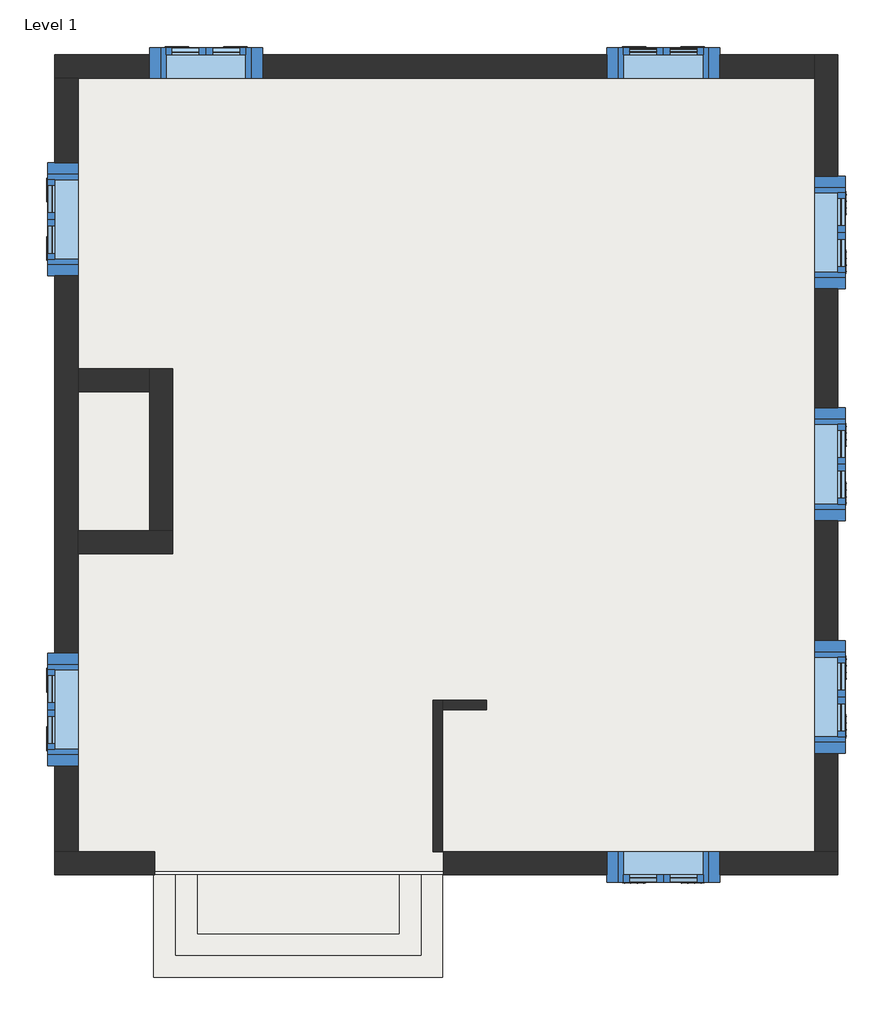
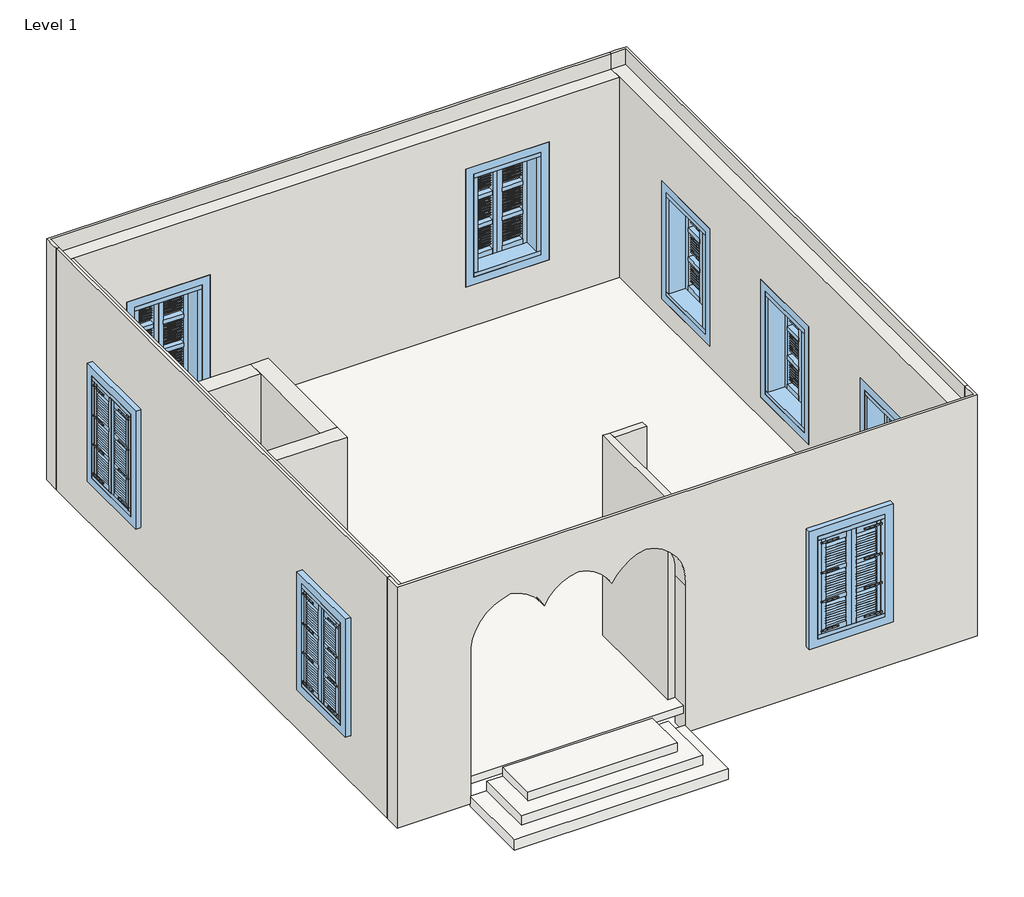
# One storey, incomplete: 9 walls, 8 windows, 4 slabs.
"""IFC4 building model written with IfcOpenShell, lengths in millimetres."""

from ifc_helpers import new_model, si_unit, frame, origin, origin_with_axes, place, context, project, spatial, polyline, circle_curve, outline, extrude, faceted_brep, transform, mapped, element, save
from ifc_brep_helpers import plane_surface, revolved_surface, advanced_brep
from components import window_0344a641

model = new_model("IFC4")

# Units and contexts
model_context = context("Model", 3, world=origin())
ifc_project = project(units=[si_unit("LENGTHUNIT", "METRE", prefix="MILLI")], contexts=[model_context])

# Site, building, storey
site = spatial("IfcSite", under=ifc_project)
building = spatial("IfcBuilding", under=site)
storey = spatial("IfcBuildingStorey", under=building, Name="Level 1", Elevation=0.0)

# Slabs
placement = place(None, origin())
element("IfcSlab", 1, ObjectType="Floor stairs entrances", at=placement, inside=storey, context=model_context, shape_type="SweptSolid", body=[
    extrude(outline(polyline([(1186.8619782, -5524.3323343), (1186.8619782, -6324.3323904), (-1563.1375714, -6324.3323904), (-1563.1375714, -5524.3323343), (1186.8619782, -5524.3323343)])), frame((0.0, 0.0, -200.0), z_axis=(0.0, 0.0, 1.0), x_axis=(1.0, 0.0, 0.0)), (0.0, 0.0, 1.0), 200.0),
])
element("IfcSlab", 2, ObjectType="Floor stairs entrances", at=placement, inside=storey, context=model_context, shape_type="SweptSolid", body=[
    extrude(outline(polyline([(-1563.1375714, -6324.3323904), (1186.8619782, -6324.3323904), (1186.8619782, -5524.3323343), (1486.8611762, -5524.3323343), (1486.8613916, -6624.3323896), (-1863.138015, -6624.3323495), (-1863.1382303, -5524.334187), (-1563.1375714, -5524.334187), (-1563.1375714, -6324.3323904)])), frame((0.0, 0.0, -366.7), z_axis=(0.0, 0.0, 1.0), x_axis=(1.0, 0.0, 0.0)), (0.0, 0.0, 1.0), 200.0),
])
element("IfcSlab", 3, ObjectType="Floor stairs entrances", at=placement, inside=storey, context=model_context, shape_type="SweptSolid", body=[
    extrude(outline(polyline([(-1863.1382303, -5524.3323343), (-1863.138015, -6624.3323495), (1486.8613916, -6624.3323896), (1486.8611762, -5524.3323343), (1786.8618038, -5524.3323343), (1786.8618038, -6924.3325537), (-2163.1382449, -6924.3325537), (-2163.1382449, -5524.3323343), (-1863.1382303, -5524.3323343)])), frame((0.0, 0.0, -550.0), z_axis=(0.0, 0.0, 1.0), x_axis=(1.0, 0.0, 0.0)), (0.0, 0.0, 1.0), 200.0),
])
element("IfcSlab", 4, ObjectType="Generic 150mm", at=placement, inside=storey, context=model_context, shape_type="Brep", body=[
    faceted_brep([(7136.8618283, -5474.3323343, -150.0), (-3463.1381717, -5474.3323343, -150.0), (-3463.1381717, -5209.3323343, -150.0), (-3463.1381717, 5360.6676657, -150.0), (-3463.1381717, 5625.6676657, -150.0), (6871.8618283, 5625.6676657, -150.0), (7136.8618283, 5625.6676657, -150.0), (7136.8618283, -5209.3323343, -150.0), (7136.8618283, -5474.3323343, 0.0), (7136.8618283, -5209.3323343, 0.0), (7136.8618283, 5625.6676657, 0.0), (6871.8618283, 5625.6676657, 0.0), (-3463.1381717, 5625.6676657, 0.0), (-3463.1381717, 5360.6676657, 0.0), (-3463.1381717, -5209.3323343, 0.0), (-3463.1381717, -5474.3323343, 0.0)], [[[0, 1, 2, 3, 4, 5, 6, 7]], [[8, 9, 10, 11, 12, 13, 14, 15]], [[1, 0, 8, 15]], [[4, 3, 2, 1, 15, 14, 13, 12]], [[6, 5, 4, 12, 11, 10]], [[0, 7, 6, 10, 9, 8]]]),
])

# Walls
element("IfcWall", 5, ObjectType="Double wall 250mm", at=placement, inside=storey, context=model_context, shape_type="AdvancedBrep", body=[
    advanced_brep(
    [(7186.8618283, -5524.3323343, 4200.0), (-3513.1381717, -5524.3323343, 4200.0), (-3513.1381717, -5524.3323343, -500.0), (-2153.1673852, -5524.3323343, -500.0), (-2153.1673852, -5524.3323343, 2380.0), (-1427.9565679, -5524.3323343, 3335.4150695), (-802.9565679, -5524.3323343, 2884.2955271), (-177.9565679, -5524.3323343, 3335.4150695), (447.0434321, -5524.3323343, 2884.2955271), (1072.0434321, -5524.3323343, 3335.4150695), (1797.0434321, -5524.3323343, 2380.0), (1797.0434321, -5524.3323343, -500.0), (7186.8618283, -5524.3323343, -500.0), (5571.8618283, -5524.3323343, 2700.0), (5571.8618283, -5524.3323343, 400.0), (4031.8618283, -5524.3323343, 400.0), (4031.8618283, -5524.3323343, 2700.0), (7186.8618283, -5209.3323343, 4200.0), (7186.8618283, -5209.3323343, -500.0), (6871.8618283, -5209.3323343, -500.0), (1797.0434321, -5209.3323343, -500.0), (1797.0434321, -5209.3323343, 2380.0), (1072.0434321, -5209.3323343, 3335.4150695), (447.0434321, -5209.3323343, 2884.2955271), (-177.9565679, -5209.3323343, 3335.4150695), (-802.9565679, -5209.3323343, 2884.2955271), (-1427.9565679, -5209.3323343, 3335.4150695), (-2153.1673852, -5209.3323343, 2380.0), (-2153.1673852, -5209.3323343, -500.0), (-3198.1381717, -5209.3323343, -500.0), (-3513.1381717, -5209.3323343, -500.0), (-3513.1381717, -5209.3323343, 4200.0), (-3463.1381717, -5209.3323343, 4200.0), (-3463.1381717, -5209.3323343, 3900.0), (-3198.1381717, -5209.3323343, 3900.0), (1656.8618038, -5209.3323343, 3900.0), (1786.8618038, -5209.3323343, 3900.0), (6871.8618283, -5209.3323343, 3900.0), (7136.8618283, -5209.3323343, 3900.0), (7136.8618283, -5209.3323343, 4200.0), (5571.8618283, -5209.3323343, 400.0), (5571.8618283, -5209.3323343, 2700.0), (4031.8618283, -5209.3323343, 2700.0), (4031.8618283, -5209.3323343, 400.0), (7186.8618283, -5304.3323343, 4200.0), (7136.8618283, -5474.3323343, 4200.0), (-3463.1381717, -5474.3323343, 4200.0), (-3513.1381717, -5304.3323343, 4200.0), (-3463.1381717, -5474.3323343, 3900.0), (7136.8618283, -5474.3323343, 3900.0)],
    [
        (0, 1),
        (1, 2),
        (2, 3),
        (3, 4),
        (4, 5, circle_curve(frame((-1283.8635384, -5524.3323343, 2473.0964895), z_axis=(0.0, 1.0, 0.0), x_axis=(-1.0, 0.0, 0.0)), 874.2746333)),
        (5, 6, circle_curve(frame((-1554.2065679, -5524.3323343, 2501.9925828), z_axis=(0.0, 1.0, 0.0), x_axis=(-1.0, 0.0, 0.0)), 842.9306637)),
        (6, 7, circle_curve(frame((-51.7065679, -5524.3323343, 2501.9925828), z_axis=(0.0, 1.0, 0.0), x_axis=(-1.0, 0.0, 0.0)), 842.9306637)),
        (7, 8, circle_curve(frame((-304.2065679, -5524.3323343, 2501.9925828), z_axis=(0.0, 1.0, 0.0), x_axis=(-1.0, 0.0, 0.0)), 842.9306637)),
        (8, 9, circle_curve(frame((1198.2934321, -5524.3323343, 2501.9925828), z_axis=(0.0, 1.0, 0.0), x_axis=(-1.0, 0.0, 0.0)), 842.9306637)),
        (9, 10, circle_curve(frame((928.1732549, -5524.3323343, 2473.4573903), z_axis=(0.0, 1.0, 0.0), x_axis=(-1.0, 0.0, 0.0)), 873.8819535)),
        (10, 11),
        (11, 12),
        (12, 0),
        (13, 14),
        (14, 15),
        (15, 16),
        (16, 13),
        (17, 18),
        (18, 19),
        (19, 20),
        (20, 21),
        (21, 22, circle_curve(frame((928.1732549, -5209.3323343, 2473.4573903), z_axis=(0.0, -1.0, 0.0), x_axis=(-1.0, 0.0, 0.0)), 873.8819535)),
        (22, 23, circle_curve(frame((1198.2934321, -5209.3323343, 2501.9925828), z_axis=(0.0, -1.0, 0.0), x_axis=(-1.0, 0.0, 0.0)), 842.9306637)),
        (23, 24, circle_curve(frame((-304.2065679, -5209.3323343, 2501.9925828), z_axis=(0.0, -1.0, 0.0), x_axis=(-1.0, 0.0, 0.0)), 842.9306637)),
        (24, 25, circle_curve(frame((-51.7065679, -5209.3323343, 2501.9925828), z_axis=(0.0, -1.0, 0.0), x_axis=(-1.0, 0.0, 0.0)), 842.9306637)),
        (25, 26, circle_curve(frame((-1554.2065679, -5209.3323343, 2501.9925828), z_axis=(0.0, -1.0, 0.0), x_axis=(-1.0, 0.0, 0.0)), 842.9306637)),
        (26, 27, circle_curve(frame((-1283.8635384, -5209.3323343, 2473.0964895), z_axis=(0.0, -1.0, 0.0), x_axis=(-1.0, 0.0, 0.0)), 874.2746333)),
        (27, 28),
        (28, 29),
        (29, 30),
        (30, 31),
        (31, 32),
        (32, 33),
        (33, 34),
        (34, 35),
        (35, 36),
        (36, 37),
        (37, 38),
        (38, 39),
        (39, 17),
        (40, 41),
        (41, 42),
        (42, 43),
        (43, 40),
        (18, 12),
        (11, 20),
        (2, 30),
        (28, 3),
        (0, 44),
        (44, 17),
        (39, 45),
        (45, 46),
        (46, 32),
        (31, 47),
        (47, 1),
        (40, 14),
        (13, 41),
        (16, 42),
        (15, 43),
        (26, 5),
        (4, 27),
        (25, 6),
        (24, 7),
        (23, 8),
        (22, 9),
        (21, 10),
        (48, 49),
        (49, 38),
        (33, 48),
        (49, 45),
        (48, 46),
    ],
    [
        plane_surface(frame((-3372.6741935, -5524.3323343, -500.0), z_axis=(0.0, -1.0, 0.0), x_axis=(1.0, 0.0, 0.0))),
        plane_surface(frame((-3372.6741935, -5209.3323343, -500.0), z_axis=(0.0, 1.0, 0.0), x_axis=(-1.0, 0.0, 0.0))),
        plane_surface(frame((-3355.6381717, -5524.3323343, -500.0), z_axis=(0.0, 0.0, -1.0), x_axis=(0.0, 1.0, 0.0))),
        plane_surface(frame((7029.3618283, -5524.3323343, 4200.0), z_axis=(0.0, 0.0, 1.0), x_axis=(0.0, 1.0, 0.0))),
        plane_surface(frame((7186.8618283, -5474.3323343, -500.0), z_axis=(1.0, 0.0, 0.0), x_axis=(0.0, 1.0, 0.0))),
        plane_surface(frame((-3513.1381717, 5625.6676657, -500.0), z_axis=(-1.0, 0.0, 0.0), x_axis=(0.0, -1.0, 0.0))),
        plane_surface(frame((5571.8618283, -5209.3323343, 400.0), z_axis=(-1.0, 0.0, 0.0), x_axis=(0.0, -1.0, 0.0))),
        plane_surface(frame((5571.8618283, -5209.3323343, 2700.0), z_axis=(0.0, 0.0, -1.0), x_axis=(0.0, -1.0, 0.0))),
        plane_surface(frame((4031.8618283, -5209.3323343, 2700.0), z_axis=(1.0, 0.0, 0.0), x_axis=(0.0, -1.0, 0.0))),
        plane_surface(frame((4031.8618283, -5209.3323343, 400.0), z_axis=(0.0, 0.0, 1.0), x_axis=(0.0, -1.0, 0.0))),
        revolved_surface(polyline([(-2158.1381717, -5209.3323343, 2473.0964895), (-2158.1381717, -5524.3323343, 2473.0964895)]), (-1283.8635384, -5524.3323343, 2473.0964895), (0.0, 1.0, 0.0)),
        revolved_surface(polyline([(-2397.1372315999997, -5209.3323343, 2501.9925828), (-2397.1372315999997, -5524.3323343, 2501.9925828)]), (-1554.2065679, -5524.3323343, 2501.9925828), (0.0, 1.0, 0.0)),
        revolved_surface(polyline([(-894.6372316, -5209.3323343, 2501.9925828), (-894.6372316, -5524.3323343, 2501.9925828)]), (-51.7065679, -5524.3323343, 2501.9925828), (0.0, 1.0, 0.0)),
        revolved_surface(polyline([(-1147.1372316, -5209.3323343, 2501.9925828), (-1147.1372316, -5524.3323343, 2501.9925828)]), (-304.2065679, -5524.3323343, 2501.9925828), (0.0, 1.0, 0.0)),
        revolved_surface(polyline([(355.36276840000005, -5209.3323343, 2501.9925828), (355.36276840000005, -5524.3323343, 2501.9925828)]), (1198.2934321, -5524.3323343, 2501.9925828), (0.0, 1.0, 0.0)),
        revolved_surface(polyline([(54.29130139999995, -5209.3323343, 2473.4573903), (54.29130139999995, -5524.3323343, 2473.4573903)]), (928.1732549, -5524.3323343, 2473.4573903), (0.0, 1.0, 0.0)),
        plane_surface(frame((1797.0434321, -5209.3323343, 2380.0), z_axis=(-1.0, 0.0, 0.0), x_axis=(0.0, -1.0, 0.0))),
        plane_surface(frame((-2153.1673852, -5209.3323343, -500.0), z_axis=(1.0, 0.0, 0.0), x_axis=(0.0, -1.0, 0.0))),
        plane_surface(frame((7136.8618283, 5625.6676657, 3900.0), z_axis=(0.0, 0.0, 1.0), x_axis=(1.0, 0.0, 0.0))),
        plane_surface(frame((7136.8618283, -5474.3323343, 3900.0), z_axis=(-1.0, 0.0, 0.0), x_axis=(0.0, 1.0, 0.0))),
        plane_surface(frame((-3463.1381717, -5474.3323343, 3900.0), z_axis=(0.0, 1.0, 0.0), x_axis=(1.0, 0.0, 0.0))),
        plane_surface(frame((-3463.1381717, 5625.6676657, 3900.0), z_axis=(1.0, 0.0, 0.0), x_axis=(0.0, -1.0, 0.0))),
    ],
    [
        (0, [[1, 2, 3, 4, 5, 6, 7, 8, 9, 10, 11, 12, 13], [14, 15, 16, 17]]),
        (1, [[18, 19, 20, 21, 22, 23, 24, 25, 26, 27, 28, 29, 30, 31, 32, 33, 34, 35, 36, 37, 38, 39, 40], [41, 42, 43, 44]]),
        (2, [[45, -12, 46, -20, -19]]),
        (2, [[47, -30, -29, 48, -3]]),
        (3, [[-1, 49, 50, -40, 51, 52, 53, -32, 54, 55]]),
        (4, [[-13, -45, -18, -50, -49]]),
        (5, [[-2, -55, -54, -31, -47]]),
        (6, [[-41, 56, -14, 57]]),
        (7, [[-42, -57, -17, 58]]),
        (8, [[-43, -58, -16, 59]]),
        (9, [[-44, -59, -15, -56]]),
        (10, [[60, -5, 61, -27]]),
        (11, [[-60, -26, 62, -6]]),
        (12, [[-62, -25, 63, -7]]),
        (13, [[-63, -24, 64, -8]]),
        (14, [[-64, -23, 65, -9]]),
        (15, [[-65, -22, 66, -10]]),
        (16, [[-66, -21, -46, -11]]),
        (17, [[-61, -4, -48, -28]]),
        (18, [[67, 68, -38, -37, -36, -35, -34, 69]]),
        (19, [[70, -51, -39, -68]]),
        (20, [[-67, 71, -52, -70]]),
        (21, [[-71, -69, -33, -53]]),
    ],
),
])
element("IfcWall", 6, ObjectType="Double wall 250mm", at=placement, inside=storey, context=model_context, shape_type="Brep", body=[
    faceted_brep([(7186.8618283, -5209.3323343, -500.0), (7186.8618283, 5675.6676657, -500.0), (7186.8618283, 5675.6676657, 4200.0), (7186.8618283, -5209.3323343, 4200.0), (7186.8618283, -2324.3319881, 2700.0), (7186.8618283, -2324.3319881, 400.0), (7186.8618283, -3864.3319881, 400.0), (7186.8618283, -3864.3319881, 2700.0), (7186.8618283, 855.6680119, 2700.0), (7186.8618283, 855.6680119, 400.0), (7186.8618283, -684.3319881, 400.0), (7186.8618283, -684.3319881, 2700.0), (7186.8618283, 4020.6676657, 2700.0), (7186.8618283, 4020.6676657, 400.0), (7186.8618283, 2480.6676657, 400.0), (7186.8618283, 2480.6676657, 2700.0), (6871.8618283, 5675.6676657, -500.0), (6871.8618283, 5360.6676657, -500.0), (6871.8618283, -5209.3323343, -500.0), (6871.8618283, -5209.3323343, -150.0), (6871.8618283, 5625.6676657, -150.0), (6871.8618283, 5625.6676657, 0.0), (6871.8618283, -5209.3323343, 0.0), (6871.8618283, -5209.3323343, 3900.0), (6871.8618283, 5360.6676657, 3900.0), (6871.8618283, 5625.6676657, 3900.0), (6871.8618283, 5625.6676657, 4200.0), (6871.8618283, 5675.6676657, 4200.0), (6871.8618283, -2324.3319881, 400.0), (6871.8618283, -2324.3319881, 2700.0), (6871.8618283, -3864.3319881, 2700.0), (6871.8618283, -3864.3319881, 400.0), (6871.8618283, 855.6680119, 400.0), (6871.8618283, 855.6680119, 2700.0), (6871.8618283, -684.3319881, 2700.0), (6871.8618283, -684.3319881, 400.0), (6871.8618283, 4020.6676657, 400.0), (6871.8618283, 4020.6676657, 2700.0), (6871.8618283, 2480.6676657, 2700.0), (6871.8618283, 2480.6676657, 400.0), (6966.8618283, 5675.6676657, 4200.0), (7136.8618283, 5625.6676657, 4200.0), (7136.8618283, -5209.3323343, 4200.0), (7136.8618283, -5209.3323343, 3900.0), (7136.8618283, -5209.3323343, 0.0), (7136.8618283, -5209.3323343, -150.0), (7136.8618283, 5625.6676657, 3900.0), (7136.8618283, 5625.6676657, -150.0), (7136.8618283, 5625.6676657, 0.0)], [[[0, 1, 2, 3], [4, 5, 6, 7], [8, 9, 10, 11], [12, 13, 14, 15]], [[16, 17, 18, 19, 20, 21, 22, 23, 24, 25, 26, 27], [28, 29, 30, 31], [32, 33, 34, 35], [36, 37, 38, 39]], [[1, 0, 18, 17, 16]], [[3, 2, 40, 27, 26, 41, 42]], [[0, 3, 42, 43, 23, 22, 44, 45, 19, 18]], [[2, 1, 16, 27, 40]], [[29, 28, 5, 4]], [[30, 29, 4, 7]], [[31, 30, 7, 6]], [[28, 31, 6, 5]], [[33, 32, 9, 8]], [[34, 33, 8, 11]], [[35, 34, 11, 10]], [[32, 35, 10, 9]], [[37, 36, 13, 12]], [[38, 37, 12, 15]], [[39, 38, 15, 14]], [[36, 39, 14, 13]], [[43, 46, 25, 24, 23]], [[46, 41, 26, 25]], [[41, 46, 43, 42]], [[45, 47, 20, 19]], [[21, 48, 44, 22]], [[47, 48, 21, 20]], [[48, 47, 45, 44]]]),
])
element("IfcWall", 7, ObjectType="Double wall 250mm", at=placement, inside=storey, context=model_context, shape_type="Brep", body=[
    faceted_brep([(6871.8618283, 5675.6676657, -500.0), (-3513.1381717, 5675.6676657, -500.0), (-3513.1381717, 5675.6676657, 4200.0), (6871.8618283, 5675.6676657, 4200.0), (-2218.1381717, 5675.6676657, 2700.0), (-2218.1381717, 5675.6676657, 400.0), (-678.1381717, 5675.6676657, 400.0), (-678.1381717, 5675.6676657, 2700.0), (4031.8618283, 5675.6676657, 3100.0), (4031.8618283, 5675.6676657, 800.0), (5571.8618283, 5675.6676657, 800.0), (5571.8618283, 5675.6676657, 3100.0), (-3513.1381717, 5360.6676657, -500.0), (-3198.1381717, 5360.6676657, -500.0), (6871.8618283, 5360.6676657, -500.0), (6871.8618283, 5360.6676657, 3900.0), (-3198.1381717, 5360.6676657, 3900.0), (-3463.1381717, 5360.6676657, 3900.0), (-3463.1381717, 5360.6676657, 4200.0), (-3513.1381717, 5360.6676657, 4200.0), (-2218.1381717, 5360.6676657, 400.0), (-2218.1381717, 5360.6676657, 2700.0), (-678.1381717, 5360.6676657, 2700.0), (-678.1381717, 5360.6676657, 400.0), (4031.8618283, 5360.6676657, 800.0), (4031.8618283, 5360.6676657, 3100.0), (5571.8618283, 5360.6676657, 3100.0), (5571.8618283, 5360.6676657, 800.0), (-3513.1381717, 5455.6676657, 4200.0), (-3463.1381717, 5625.6676657, 4200.0), (6871.8618283, 5625.6676657, 4200.0), (6871.8618283, 5625.6676657, 3900.0), (-3463.1381717, 5625.6676657, 3900.0)], [[[0, 1, 2, 3], [4, 5, 6, 7], [8, 9, 10, 11]], [[12, 13, 14, 15, 16, 17, 18, 19], [20, 21, 22, 23], [24, 25, 26, 27]], [[1, 0, 14, 13, 12]], [[3, 2, 28, 19, 18, 29, 30]], [[0, 3, 30, 31, 15, 14]], [[2, 1, 12, 19, 28]], [[21, 20, 5, 4]], [[22, 21, 4, 7]], [[23, 22, 7, 6]], [[20, 23, 6, 5]], [[32, 17, 16, 15, 31]], [[29, 32, 31, 30]], [[32, 29, 18, 17]], [[25, 24, 9, 8]], [[26, 25, 8, 11]], [[27, 26, 11, 10]], [[24, 27, 10, 9]]]),
])
element("IfcWall", 8, ObjectType="Double wall 250mm", at=placement, inside=storey, context=model_context, shape_type="Brep", body=[
    faceted_brep([(-3513.1381717, 5360.6676657, -500.0), (-3513.1381717, -5209.3323343, -500.0), (-3513.1381717, -5209.3323343, 4200.0), (-3513.1381717, 5360.6676657, 4200.0), (-3513.1381717, 2660.6676657, 2700.0), (-3513.1381717, 2660.6676657, 400.0), (-3513.1381717, 4200.6676657, 400.0), (-3513.1381717, 4200.6676657, 2700.0), (-3513.1381717, -4035.2541777, 2700.0), (-3513.1381717, -4035.2541777, 400.0), (-3513.1381717, -2495.2541777, 400.0), (-3513.1381717, -2495.2541777, 2700.0), (-3198.1381717, -5209.3323343, -500.0), (-3198.1381717, 5360.6676657, -500.0), (-3198.1381717, 5360.6676657, -150.0), (-3198.1381717, -5209.3323343, -150.0), (-3198.1381717, 5360.6676657, 3900.0), (-3198.1381717, 1390.6676674, 3900.0), (-3198.1381717, 1075.6676674, 3900.0), (-3198.1381717, -824.3323326, 3900.0), (-3198.1381717, -1139.3323326, 3900.0), (-3198.1381717, -5209.3323343, 3900.0), (-3198.1381717, -5209.3323343, 0.0), (-3198.1381717, -1139.3323326, 0.0), (-3198.1381717, -824.3323326, 0.0), (-3198.1381717, 1075.6676674, 0.0), (-3198.1381717, 1390.6676674, 0.0), (-3198.1381717, 5360.6676657, 0.0), (-3198.1381717, 2660.6676657, 400.0), (-3198.1381717, 2660.6676657, 2700.0), (-3198.1381717, 4200.6676657, 2700.0), (-3198.1381717, 4200.6676657, 400.0), (-3198.1381717, -4035.2541777, 400.0), (-3198.1381717, -4035.2541777, 2700.0), (-3198.1381717, -2495.2541777, 2700.0), (-3198.1381717, -2495.2541777, 400.0), (-3463.1381717, -5209.3323343, 4200.0), (-3463.1381717, 5360.6676657, 4200.0), (-3463.1381717, 5360.6676657, 3900.0), (-3463.1381717, 5360.6676657, 0.0), (-3463.1381717, 5360.6676657, -150.0), (-3463.1381717, -5209.3323343, -150.0), (-3463.1381717, -5209.3323343, 0.0), (-3463.1381717, -5209.3323343, 3900.0)], [[[0, 1, 2, 3], [4, 5, 6, 7], [8, 9, 10, 11]], [[12, 13, 14, 15]], [[16, 17, 18, 19, 20, 21, 22, 23, 24, 25, 26, 27], [28, 29, 30, 31], [32, 33, 34, 35]], [[1, 0, 13, 12]], [[3, 2, 36, 37]], [[0, 3, 37, 38, 16, 27, 39, 40, 14, 13]], [[2, 1, 12, 15, 41, 42, 22, 21, 43, 36]], [[29, 28, 5, 4]], [[30, 29, 4, 7]], [[31, 30, 7, 6]], [[28, 31, 6, 5]], [[33, 32, 9, 8]], [[34, 33, 8, 11]], [[35, 34, 11, 10]], [[32, 35, 10, 9]], [[38, 43, 21, 20, 19, 18, 17, 16]], [[43, 38, 37, 36]], [[40, 41, 15, 14]], [[42, 39, 27, 26, 25, 24, 23, 22]], [[41, 40, 39, 42]]]),
])
element("IfcWall", 9, ObjectType="Double wall 250mm", at=placement, inside=storey, context=model_context, shape_type="Brep", body=[
    faceted_brep([(-3198.1381717, -1139.3323326, 0.0), (-1903.1381717, -1139.3323326, 0.0), (-1903.1381717, -1139.3323326, 3900.0), (-3198.1381717, -1139.3323326, 3900.0), (-3198.1381717, -824.3323326, 0.0), (-3198.1381717, -824.3323326, 3900.0), (-2218.1381717, -824.3323326, 3900.0), (-1903.1381717, -824.3323326, 3900.0), (-1903.1381717, -824.3323326, 0.0), (-2218.1381717, -824.3323326, 0.0)], [[[0, 1, 2, 3]], [[4, 5, 6, 7, 8, 9]], [[1, 0, 4, 9, 8]], [[0, 3, 5, 4]], [[2, 1, 8, 7]], [[3, 2, 7, 6, 5]]]),
])
element("IfcWall", 10, ObjectType="Double wall 250mm", at=placement, inside=storey, context=model_context, shape_type="Brep", body=[
    faceted_brep([(-1903.1381717, -824.3323326, 0.0), (-1903.1381717, 1390.6676674, 0.0), (-1903.1381717, 1390.6676674, 3900.0), (-1903.1381717, -824.3323326, 3900.0), (-2218.1381717, -824.3323326, 0.0), (-2218.1381717, -824.3323326, 3900.0), (-2218.1381717, 1075.6676674, 3900.0), (-2218.1381717, 1390.6676674, 3900.0), (-2218.1381717, 1390.6676674, 0.0), (-2218.1381717, 1075.6676674, 0.0)], [[[0, 1, 2, 3]], [[4, 5, 6, 7, 8, 9]], [[1, 0, 4, 9, 8]], [[0, 3, 5, 4]], [[2, 1, 8, 7]], [[3, 2, 7, 6, 5]]]),
])
element("IfcWall", 11, ObjectType="Double wall 250mm", at=placement, inside=storey, context=model_context, shape_type="SweptSolid", body=[
    extrude(outline(polyline([(-3198.1381717, 1390.6676674), (-2218.1381717, 1390.6676674), (-2218.1381717, 1075.6676674), (-3198.1381717, 1075.6676674), (-3198.1381717, 1390.6676674)])), origin_with_axes(), (0.0, 0.0, 1.0), 3900.0),
])
element("IfcWall", 12, ObjectType="Wall 100 mm", at=placement, inside=storey, context=model_context, shape_type="Brep", body=[
    faceted_brep([(1786.8618038, -5209.3323343, 0.0), (1786.8618038, -3269.3323343, 0.0), (1786.8618038, -3139.3323343, 0.0), (1786.8618038, -3139.3323343, 3900.0), (1786.8618038, -3269.3323343, 3900.0), (1786.8618038, -5209.3323343, 3900.0), (1656.8618038, -5209.3323343, 0.0), (1656.8618038, -5209.3323343, 3900.0), (1656.8618038, -3139.3323343, 3900.0), (1656.8618038, -3139.3323343, 0.0)], [[[0, 1, 2, 3, 4, 5]], [[6, 7, 8, 9]], [[2, 1, 0, 6, 9]], [[0, 5, 7, 6]], [[3, 2, 9, 8]], [[5, 4, 3, 8, 7]]]),
])
element("IfcWall", 13, ObjectType="Wall 100 mm", at=placement, inside=storey, context=model_context, shape_type="SweptSolid", body=[
    extrude(outline(polyline([(2386.8618038, -3269.3323343), (1786.8618038, -3269.3323343), (1786.8618038, -3139.3323343), (2386.8618038, -3139.3323343), (2386.8618038, -3269.3323343)])), origin_with_axes(), (0.0, 0.0, 1.0), 3900.0),
])

# Windows
window_shape = window_0344a641(model_context)
element("IfcWindow", 14, ObjectType="ziad louvers : ziad louvers", at=placement, inside=storey, context=model_context, shape_type="MappedRepresentation", body=[
    mapped(window_shape, transform((4801.8618283, -5366.8323343, -400.0), x_axis=(-1.0, 0.0, 0.0), y_axis=(0.0, -1.0, 0.0), z_axis=(0.0, 0.0, 1.0))),
])
element("IfcWindow", 15, ObjectType="ziad louvers : ziad louvers", at=placement, inside=storey, context=model_context, shape_type="MappedRepresentation", body=[
    mapped(window_shape, transform((7029.3618283, -3094.3319881, -400.0), x_axis=(0.0, -1.0, 0.0), y_axis=(1.0, 0.0, 0.0), z_axis=(0.0, 0.0, 1.0))),
])
element("IfcWindow", 16, ObjectType="ziad louvers : ziad louvers", at=placement, inside=storey, context=model_context, shape_type="MappedRepresentation", body=[
    mapped(window_shape, transform((7029.3618283, 85.6680119, -400.0), x_axis=(0.0, -1.0, 0.0), y_axis=(1.0, 0.0, 0.0), z_axis=(0.0, 0.0, 1.0))),
])
element("IfcWindow", 17, ObjectType="ziad louvers : ziad louvers", at=placement, inside=storey, context=model_context, shape_type="MappedRepresentation", body=[
    mapped(window_shape, transform((7029.3618283, 3250.6676657, -400.0), x_axis=(0.0, -1.0, 0.0), y_axis=(1.0, 0.0, 0.0), z_axis=(0.0, 0.0, 1.0))),
])
element("IfcWindow", 18, ObjectType="ziad louvers : ziad louvers", at=placement, inside=storey, context=model_context, shape_type="MappedRepresentation", body=[
    mapped(window_shape, transform((-1448.1381717, 5518.1676657, -400.0), x_axis=(1.0, 0.0, 0.0), y_axis=(0.0, 1.0, 0.0), z_axis=(0.0, 0.0, 1.0))),
])
element("IfcWindow", 19, ObjectType="ziad louvers : ziad louvers", at=placement, inside=storey, context=model_context, shape_type="MappedRepresentation", body=[
    mapped(window_shape, transform((-3355.6381717, 3430.6676657, -400.0), x_axis=(0.0, 1.0, 0.0), y_axis=(-1.0, 0.0, 0.0), z_axis=(0.0, 0.0, 1.0))),
])
element("IfcWindow", 20, ObjectType="ziad louvers : ziad louvers", at=placement, inside=storey, context=model_context, shape_type="MappedRepresentation", body=[
    mapped(window_shape, transform((-3355.6381717, -3265.2541777, -400.0), x_axis=(0.0, 1.0, 0.0), y_axis=(-1.0, 0.0, 0.0), z_axis=(0.0, 0.0, 1.0))),
])
element("IfcWindow", 21, ObjectType="ziad louvers : ziad louvers", at=placement, inside=storey, context=model_context, shape_type="MappedRepresentation", body=[
    mapped(window_shape, transform((4801.8618283, 5518.1676657, 0.0), x_axis=(1.0, 0.0, 0.0), y_axis=(0.0, 1.0, 0.0), z_axis=(0.0, 0.0, 1.0))),
])

save(model, "model.ifc")
